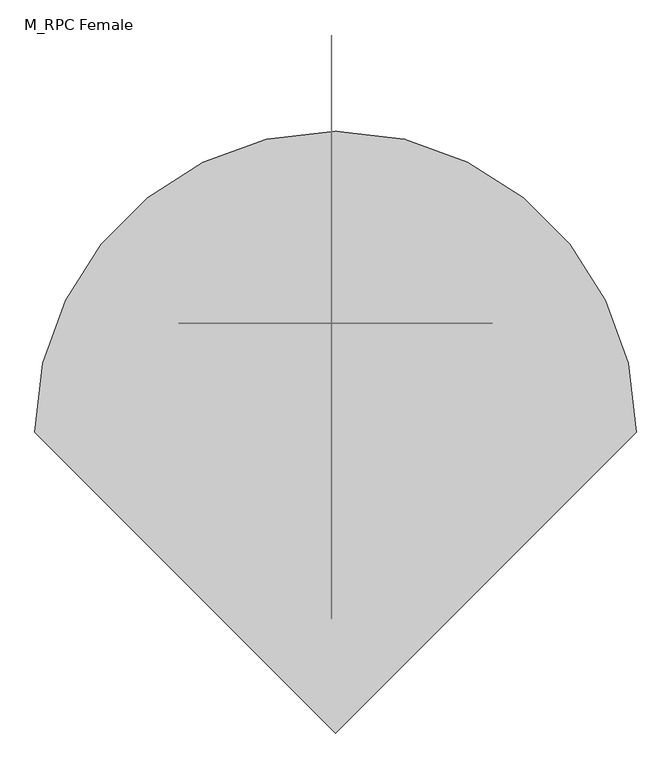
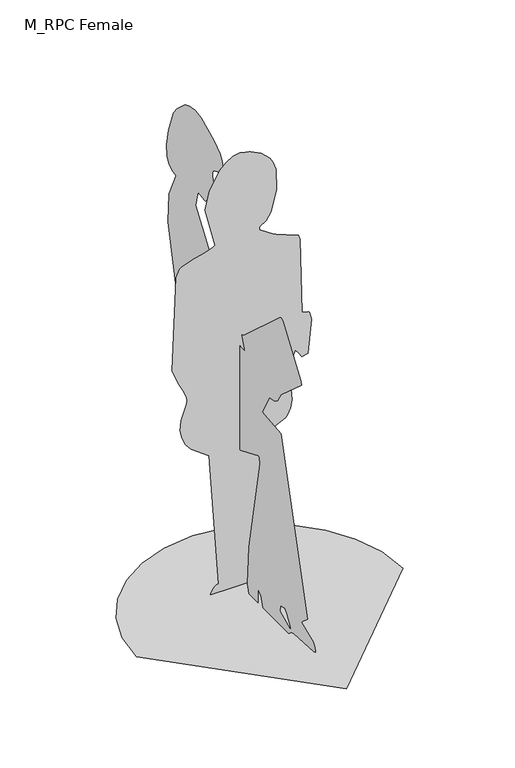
"""IFC4 building model written with IfcOpenShell, lengths in millimetres: proxy geometry, M_RPC Female : Cynthia."""

from ifc_helpers import new_model, si_unit, origin, place, context, project, spatial, triangles, source, transform, mapped, element, save


def m_rpc_female_9d515f38(model_context):
    return source(origin(), model_context, "Body", "Tessellation", [
        triangles([(-437.3060472, 0.0, 2.93e-05), (-425.7451249, 100.2016327, 2.93e-05), (-392.8196637, 192.220807, 2.93e-05), (-341.1660942, 273.421065, 2.93e-05), (-273.4210832, 341.1661669, 2.93e-05), (-192.2207525, 392.8196274, 2.93e-05), (-100.2015873, 425.7450522, 2.93e-05), (1.91e-05, 437.3060472, 2.93e-05), (100.2016418, 425.7451249, 2.93e-05), (192.2208252, 392.8196637, 2.93e-05), (273.4210832, 341.1660942, 2.93e-05), (341.1662395, 273.4210832, 2.93e-05), (392.8196274, 192.2207344, 2.93e-05), (425.7450522, 100.2015691, 2.93e-05), (437.3060472, -3.36e-05, 2.93e-05), (-5.73e-05, -437.3060835, 2.93e-05), (-5.5814595, -72.2469164, 69.4963894), (-5.5814595, -67.0311828, 46.0256926), (-5.5814618, -124.4040072, 19.9471473), (-5.5814618, -129.6197135, 25.1628355), (-5.5814606, -107.6002908, 62.2269748), (-5.5814595, -95.7176132, 74.7120821), (-5.5814595, 28.6037251, 4.4e-06), (-5.5814589, 39.8908927, 35.5942709), (-5.5814589, 42.4985824, 37.2668455), (-5.5814583, 45.6386024, 39.1828236), (-5.5814583, 48.9915681, 41.1595925), (-5.5814583, 52.2381586, 43.0148617), (-5.5814583, 55.0589485, 44.5657618), (-5.5814583, 57.1346439, 45.630268), (-5.5814583, 58.1458422, 46.0256972), (-5.5814595, 58.1459239, 5.3e-06), (-5.5814589, 108.9534877, 6.8e-06), (-5.5814578, 116.5758876, 29.8220396), (-5.5814544, 109.3237594, 163.617066), (-5.5814447, 45.4571863, 488.7460396), (-5.5814447, 47.7144613, 510.22398), (-5.5814447, 52.930154, 512.8317787), (-5.5814442, 176.693648, 461.1355883), (-5.5814407, 431.0103195, 441.4519423), (-5.5814407, 446.7163739, 445.0275962), (-5.5814402, 456.1588572, 455.8254473), (-5.5814334, 511.6812675, 636.0533998), (-5.5814294, 514.5206291, 776.2252218), (-5.581422, 566.7675127, 1012.4535353), (-5.5814192, 561.4620226, 1112.6385538), (-5.5814163, 522.3441341, 1198.6978357), (-5.5814163, 544.766203, 1204.597403), (-5.5814158, 561.2101121, 1214.9823069), (-5.5814152, 573.9146782, 1236.2579704), (-5.5814135, 577.4590839, 1272.8749214), (-5.5814124, 566.4222939, 1329.2833969), (-5.5814107, 535.3834182, 1409.9341427), (-5.5814101, 516.7875329, 1433.7646648), (-5.5814095, 472.5757693, 1474.3213463), (-5.5814095, 445.9834971, 1486.7823589), (-5.5814101, 415.7492961, 1491.1889214), (-5.5814107, 381.3848602, 1485.4078789), (-5.5814124, 308.1104447, 1450.1712215), (-5.5814135, 271.6909563, 1426.3745636), (-5.5814141, 259.9824413, 1410.5522736), (-5.5814152, 256.5010404, 1391.3537361), (-5.5814158, 264.1664701, 1368.2083466), (-5.5814158, 270.5527808, 1361.5173306), (-5.5814158, 307.4895524, 1345.9739479), (-5.5814158, 313.689719, 1341.0972107), (-5.5814158, 316.3235335, 1334.3062008), (-5.5814163, 314.5106718, 1321.5905525), (-5.5814175, 303.2843222, 1289.972715), (-5.5814175, 303.9330653, 1281.3193188), (-5.5814186, 344.8554039, 1227.4574902), (-5.5814192, 350.225752, 1216.9527534), (-5.5814192, 354.0102593, 1213.1380154), (-5.5814192, 360.9106739, 1211.8318451), (-5.581418, 397.1671454, 1216.9527534), (-5.5814197, 412.8142282, 1162.1877823), (-5.5814254, 300.7219422, 1007.465613), (-5.5814294, 262.9223781, 903.7025425), (-5.5814311, 261.5586532, 849.245256), (-5.5814334, 151.2455011, 828.1027239), (-5.5814334, 131.1658673, 828.382358), (-5.5814322, 146.9134072, 873.4852736), (-5.5814322, 146.8129955, 875.3236788), (-5.5814322, 136.528476, 880.5995195), (-5.5814294, -66.2908937, 1062.7625284), (-5.5814294, -72.9542315, 1068.1179428), (-5.58143, -85.3176393, 1063.7725685), (-5.5814356, -186.9121194, 916.7362673), (-5.5814362, -189.6004001, 904.0100819), (-5.5814373, -74.8547605, 802.3037899), (-5.5814385, -53.5232047, 768.5295433), (-5.5814385, -40.9526375, 757.9702314), (-5.5814385, -7.0502453, 750.1467264), (-5.5814396, 30.7395867, 681.3431499), (-5.5814396, 32.0672991, 677.1266922), (-5.5814402, 2.7970188, 673.1422697), (-5.5814413, -74.8547605, 666.6952068), (-5.5814606, -223.5024732, 113.8299342), (-5.5814606, -192.3028696, 86.4272827), (-5.5814606, -189.6004001, 82.5356507), (-5.5814629, -257.4046916, 53.8492703), (-5.5814629, -261.0574302, 50.6335736), (-5.5814635, -266.9933869, 41.9573681), (-5.5814635, -270.402463, 33.1798516), (-5.5814635, -270.8967278, 29.8373366), (-5.5814635, -270.4438667, 27.7706795), (-5.5814635, -262.2121017, 24.672413), (-5.5814623, -148.399036, 17.7234889), (-5.5814623, -129.6197135, 12.1235673), (-5.5814623, -119.228015, 0.0), (-103.2161744, 158.8626324, 3.1383159), (-93.5649829, 158.8626324, 19.2429933), (-88.6212531, 158.8626324, 24.4594445), (-82.9718341, 158.8626324, 28.4095327), (-76.7114059, 158.8626324, 30.3785123), (-108.0056803, 158.8626688, 484.1452303), (-166.5179246, 158.8626688, 527.9972775), (-183.6323596, 158.8626688, 549.7335234), (-196.1560501, 158.8626688, 575.2326937), (-202.051348, 158.8626688, 604.6170193), (-199.2806414, 158.8626688, 638.0087311), (-180.7338447, 158.8626688, 688.9253906), (-179.5105545, 158.8626688, 700.1741953), (-181.0256691, 158.8626688, 711.0286926), (-186.0299967, 158.8626688, 724.8032879), (-192.7432497, 158.8626688, 739.7140783), (-208.556347, 158.8626688, 771.7153954), (-227.9670263, 158.8626688, 820.5585623), (-215.5927998, 158.8627051, 1139.719677), (-204.4963295, 158.8627051, 1164.795472), (-195.7042972, 158.8627051, 1170.2251551), (-178.3999392, 158.8627051, 1176.5906822), (-156.0961225, 158.8627051, 1183.4371393), (-132.3056233, 158.8627051, 1190.3085222), (-110.5413813, 158.8627051, 1196.7500622), (-94.3161544, 158.8627051, 1202.3061911), (-87.1428368, 158.8627051, 1206.5211954), (-121.0449553, 158.8627051, 1339.5217255), (-105.9598841, 158.8627233, 1402.4776211), (-72.2006802, 158.8627233, 1459.3937691), (-51.1399244, 158.8627233, 1480.6096252), (-28.7965753, 158.8627233, 1494.3423626), (-6.2993163, 158.8627233, 1498.6009689), (28.3786116, 158.8627233, 1491.3014145), (62.9444138, 158.8627233, 1473.3404469), (92.2084978, 158.8627233, 1445.5319698), (103.2306357, 158.8627233, 1428.1888424), (112.1217082, 158.8627233, 1400.9906479), (114.2135863, 158.8627051, 1329.2272957), (96.1615087, 158.8627051, 1258.9099308), (79.8726138, 158.8627051, 1233.5191841), (58.8970909, 158.8627051, 1219.5604431), (58.8970909, 158.8627051, 1209.1289577), (105.4403209, 158.8627051, 1177.1577988), (186.6819918, 158.8627051, 1146.5404089), (190.9102947, 158.8627051, 1130.2535397), (197.4606216, 158.8627051, 874.561952), (217.1153449, 158.8627051, 870.6129925), (219.4355885, 158.8627051, 869.5271576), (221.3550207, 158.8627051, 866.9867603), (227.9670444, 158.8626688, 839.7671282), (217.976248, 158.8626688, 726.675848), (216.7788284, 158.8626688, 725.5374001), (198.4189752, 158.8626688, 721.3537165), (197.1134226, 158.8626688, 721.4601053), (188.2935758, 158.8626688, 736.0854481), (176.2505791, 158.8626688, 750.1465811), (172.5435924, 158.8626688, 744.3788372), (169.4577161, 158.8626688, 737.624235), (166.7655839, 158.8626688, 730.2871828), (164.2398296, 158.8626688, 722.7722345), (161.6531779, 158.8626688, 715.4839439), (158.7782626, 158.8626688, 708.8267195), (155.3877173, 158.8626688, 703.2051149), (164.598892, 158.8626688, 582.3868355), (159.7289131, 158.8626688, 557.9940293), (150.1720292, 158.8626688, 536.3024028), (143.4522449, 158.8626688, 528.6089407), (105.4337806, 158.8626688, 509.5450607), (96.8766176, 158.8626688, 503.2558007), (90.1913244, 158.8626688, 494.5766793), (88.7456459, 158.8626324, 49.410397), (105.4366693, 158.8626324, 7.4e-05), (-104.3910663, 158.8626324, 7.4e-05)], [[16, 15, 1], [15, 14, 1], [1, 14, 2], [14, 13, 2], [2, 13, 3], [3, 13, 4], [13, 12, 4], [12, 11, 4], [4, 11, 5], [5, 11, 6], [6, 11, 7], [7, 11, 8], [8, 11, 9], [9, 11, 10], [17, 23, 18], [23, 110, 18], [18, 110, 19], [110, 109, 19], [23, 17, 24], [32, 31, 33], [33, 31, 34], [19, 109, 20], [109, 108, 20], [89, 88, 90], [83, 82, 84], [86, 85, 87], [106, 105, 107], [105, 104, 107], [104, 103, 107], [103, 102, 107], [102, 101, 107], [101, 100, 107], [107, 100, 108], [108, 100, 20], [20, 100, 21], [21, 100, 22], [88, 87, 90], [87, 85, 90], [85, 84, 90], [90, 84, 91], [91, 84, 92], [92, 84, 93], [84, 82, 93], [82, 81, 93], [93, 81, 94], [81, 80, 94], [94, 80, 95], [100, 99, 22], [24, 17, 25], [25, 17, 26], [34, 31, 35], [31, 30, 35], [26, 17, 27], [27, 17, 28], [28, 17, 29], [30, 29, 35], [29, 17, 35], [17, 22, 35], [22, 99, 35], [99, 98, 35], [98, 97, 35], [35, 97, 36], [36, 97, 37], [97, 96, 37], [37, 96, 38], [96, 95, 38], [95, 80, 38], [38, 80, 39], [80, 79, 39], [39, 79, 40], [40, 79, 41], [41, 79, 42], [42, 79, 43], [43, 79, 44], [79, 78, 44], [78, 77, 44], [44, 77, 45], [45, 77, 46], [77, 76, 46], [46, 76, 47], [76, 75, 47], [73, 72, 74], [72, 71, 74], [62, 61, 63], [61, 60, 63], [63, 60, 64], [60, 59, 64], [64, 59, 65], [65, 59, 66], [59, 58, 66], [58, 57, 66], [57, 56, 66], [56, 55, 66], [55, 54, 66], [66, 54, 67], [54, 53, 67], [53, 52, 67], [67, 52, 68], [52, 51, 68], [51, 50, 68], [50, 49, 68], [49, 48, 68], [48, 47, 68], [47, 75, 68], [75, 74, 68], [74, 71, 68], [71, 70, 68], [70, 69, 68], [184, 183, 111], [111, 183, 112], [112, 183, 113], [113, 183, 114], [114, 183, 115], [183, 182, 115], [182, 181, 115], [115, 181, 116], [155, 154, 156], [165, 164, 166], [181, 180, 116], [164, 163, 166], [163, 162, 166], [166, 162, 167], [162, 161, 167], [161, 160, 167], [160, 159, 167], [159, 158, 167], [158, 157, 167], [116, 180, 117], [117, 180, 118], [118, 180, 119], [119, 180, 120], [120, 180, 121], [121, 180, 122], [180, 179, 122], [122, 179, 123], [179, 178, 123], [178, 177, 123], [177, 176, 123], [176, 175, 123], [175, 174, 123], [123, 174, 124], [124, 174, 125], [174, 173, 125], [173, 172, 125], [172, 171, 125], [171, 170, 125], [170, 169, 125], [125, 169, 126], [169, 168, 126], [126, 168, 127], [168, 167, 127], [167, 157, 127], [127, 157, 128], [157, 156, 128], [156, 154, 128], [154, 153, 128], [128, 153, 129], [129, 153, 130], [130, 153, 131], [131, 153, 132], [132, 153, 133], [133, 153, 134], [134, 153, 135], [135, 153, 136], [136, 153, 137], [153, 152, 137], [152, 151, 137], [151, 150, 137], [150, 149, 137], [137, 149, 138], [138, 149, 139], [149, 148, 139], [148, 147, 139], [147, 146, 139], [139, 146, 140], [146, 145, 140], [140, 145, 141], [145, 144, 141], [141, 144, 142], [142, 144, 143]], closed=False),
    ])


if __name__ == "__main__":
    model = new_model("IFC4")
    model_context = context("Model", 3, world=origin())
    ifc_project = project(units=[si_unit("LENGTHUNIT", "METRE", prefix="MILLI")], contexts=[model_context])
    site = spatial("IfcSite", under=ifc_project)
    building = spatial("IfcBuilding", under=site)
    placement = place(None, origin())
    m_rpc_female_shape = m_rpc_female_9d515f38(model_context)
    element("IfcBuildingElementProxy", 1, Name="M_RPC Female : Cynthia", ObjectType="M_RPC Female : Cynthia", at=placement, inside=building, context=model_context, shape_type="MappedRepresentation", body=[
        mapped(m_rpc_female_shape, transform((0.0, 0.0, 0.0), x_axis=(1.0, 0.0, 0.0), y_axis=(0.0, 1.0, 0.0), z_axis=(0.0, 0.0, 1.0))),
    ])
    save(model, "model.ifc")
